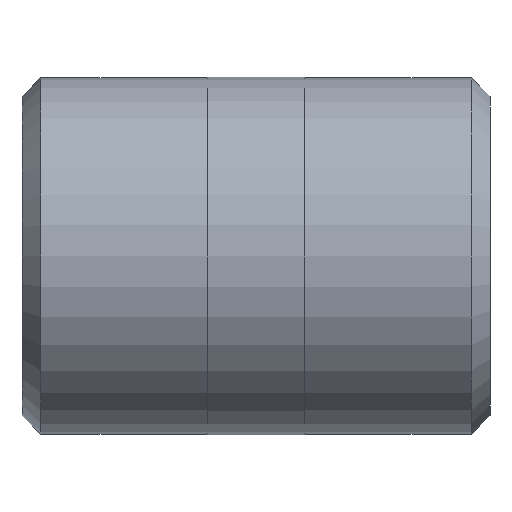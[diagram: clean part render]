
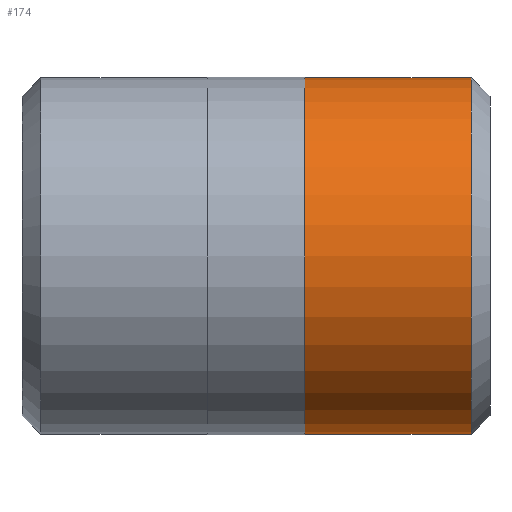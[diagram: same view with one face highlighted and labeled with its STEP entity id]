
A CAD part, left-side view. The second image highlights one B-rep face of the part: STEP entity #174.
In plain terms, the highlighted cylindrical face has radius 13.31 mm (diameter 26.619 mm), a full revolution.
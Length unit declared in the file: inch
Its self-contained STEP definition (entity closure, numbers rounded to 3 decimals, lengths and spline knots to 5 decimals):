
#23=CYLINDRICAL_SURFACE('',#201,0.524);
#28=FACE_OUTER_BOUND('',#38,.T.);
#38=EDGE_LOOP('',(#128,#129,#130,#131,#132,#133));
#52=LINE('',#300,#58);
#58=VECTOR('',#238,0.524);
#64=CIRCLE('',#199,0.524);
#65=CIRCLE('',#200,0.524);
#66=CIRCLE('',#202,0.524);
#67=CIRCLE('',#203,0.524);
#82=VERTEX_POINT('',#293);
#83=VERTEX_POINT('',#295);
#84=VERTEX_POINT('',#299);
#85=VERTEX_POINT('',#301);
#101=EDGE_CURVE('',#82,#83,#64,.T.);
#102=EDGE_CURVE('',#83,#82,#65,.T.);
#103=EDGE_CURVE('',#83,#84,#52,.T.);
#104=EDGE_CURVE('',#84,#85,#66,.T.);
#105=EDGE_CURVE('',#85,#84,#67,.T.);
#128=ORIENTED_EDGE('',*,*,#101,.F.);
#129=ORIENTED_EDGE('',*,*,#102,.F.);
#130=ORIENTED_EDGE('',*,*,#103,.T.);
#131=ORIENTED_EDGE('',*,*,#104,.T.);
#132=ORIENTED_EDGE('',*,*,#105,.T.);
#133=ORIENTED_EDGE('',*,*,#103,.F.);
#174=ADVANCED_FACE('',(#28),#23,.T.);
#199=AXIS2_PLACEMENT_3D('',#296,#232,#233);
#200=AXIS2_PLACEMENT_3D('',#297,#234,#235);
#201=AXIS2_PLACEMENT_3D('',#298,#236,#237);
#202=AXIS2_PLACEMENT_3D('',#302,#239,#240);
#203=AXIS2_PLACEMENT_3D('',#303,#241,#242);
#232=DIRECTION('center_axis',(0.,-1.,0.));
#233=DIRECTION('ref_axis',(0.,0.,1.));
#234=DIRECTION('center_axis',(0.,-1.,0.));
#235=DIRECTION('ref_axis',(0.,0.,1.));
#236=DIRECTION('center_axis',(0.,-1.,0.));
#237=DIRECTION('ref_axis',(0.,0.,-1.));
#238=DIRECTION('',(0.,1.,0.));
#239=DIRECTION('center_axis',(0.,-1.,0.));
#240=DIRECTION('ref_axis',(1.,0.,0.));
#241=DIRECTION('center_axis',(0.,-1.,0.));
#242=DIRECTION('ref_axis',(1.,0.,0.));
#293=CARTESIAN_POINT('',(0.,0.055,-0.524));
#295=CARTESIAN_POINT('',(0.,0.055,0.524));
#296=CARTESIAN_POINT('Origin',(0.,0.055,0.));
#297=CARTESIAN_POINT('Origin',(0.,0.055,0.));
#298=CARTESIAN_POINT('Origin',(0.,0.2725,0.));
#299=CARTESIAN_POINT('',(0.,0.545,0.524));
#300=CARTESIAN_POINT('',(0.,0.2725,0.524));
#301=CARTESIAN_POINT('',(0.,0.545,-0.524));
#302=CARTESIAN_POINT('Origin',(0.,0.545,0.));
#303=CARTESIAN_POINT('Origin',(0.,0.545,0.));
